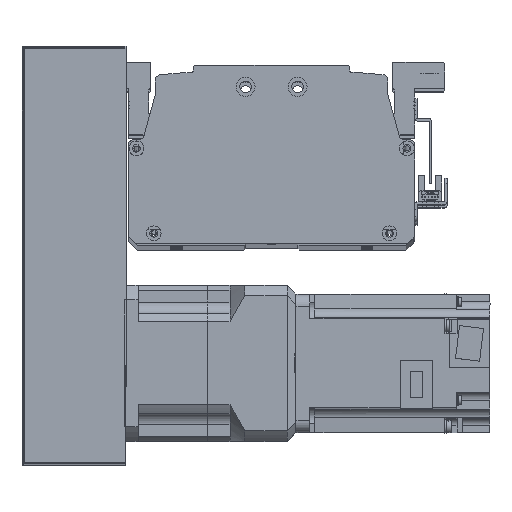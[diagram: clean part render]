
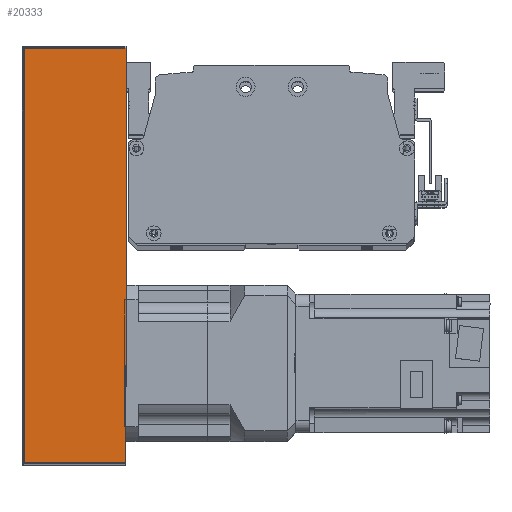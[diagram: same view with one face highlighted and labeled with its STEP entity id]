
A CAD part, top view. The second image highlights one B-rep face of the part: STEP entity #20333.
In plain terms, the highlighted planar face has unit normal (0, 0, 1) as drawn and (0, 1, 0) by its records, which use the part's own axes.
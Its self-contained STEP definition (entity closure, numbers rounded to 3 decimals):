
#603=PLANE('',#22203);
#1731=LINE('',#32725,#3391);
#1753=LINE('',#32818,#3413);
#1755=LINE('',#32828,#3415);
#1757=LINE('',#32831,#3417);
#3391=VECTOR('',#26504,10.);
#3413=VECTOR('',#26624,10.);
#3415=VECTOR('',#26638,10.);
#3417=VECTOR('',#26642,10.);
#5452=FACE_OUTER_BOUND('',#6932,.T.);
#6932=EDGE_LOOP('',(#16518,#16519,#16520,#16521));
#9854=VERTEX_POINT('',#32722);
#9855=VERTEX_POINT('',#32724);
#9876=VERTEX_POINT('',#32812);
#9879=VERTEX_POINT('',#32824);
#12240=EDGE_CURVE('',#9854,#9855,#1731,.T.);
#12288=EDGE_CURVE('',#9876,#9854,#1753,.T.);
#12293=EDGE_CURVE('',#9855,#9879,#1755,.T.);
#12295=EDGE_CURVE('',#9879,#9876,#1757,.T.);
#16518=ORIENTED_EDGE('',*,*,#12288,.F.);
#16519=ORIENTED_EDGE('',*,*,#12295,.F.);
#16520=ORIENTED_EDGE('',*,*,#12293,.F.);
#16521=ORIENTED_EDGE('',*,*,#12240,.F.);
#20333=ADVANCED_FACE('',(#5452),#603,.T.);
#22203=AXIS2_PLACEMENT_3D('',#32837,#26650,#26651);
#26504=DIRECTION('',(-1.,0.,0.));
#26624=DIRECTION('',(0.,0.,1.));
#26638=DIRECTION('',(0.,0.,-1.));
#26642=DIRECTION('',(1.,0.,0.));
#26650=DIRECTION('center_axis',(0.,1.,0.));
#26651=DIRECTION('ref_axis',(-1.,0.,0.));
#32722=CARTESIAN_POINT('',(120.,51.,30.));
#32724=CARTESIAN_POINT('',(-120.,51.,30.));
#32725=CARTESIAN_POINT('',(-121.,51.,30.));
#32812=CARTESIAN_POINT('',(120.,51.,-29.));
#32818=CARTESIAN_POINT('',(120.,51.,0.));
#32824=CARTESIAN_POINT('',(-120.,51.,-29.));
#32828=CARTESIAN_POINT('',(-120.,51.,0.));
#32831=CARTESIAN_POINT('',(60.5,51.,-29.));
#32837=CARTESIAN_POINT('Origin',(121.,51.,0.));
